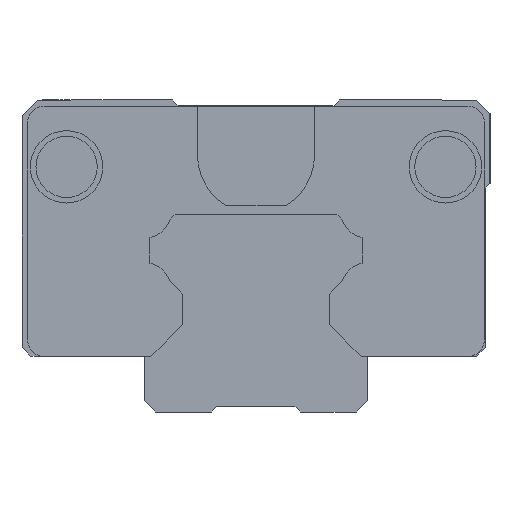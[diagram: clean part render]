
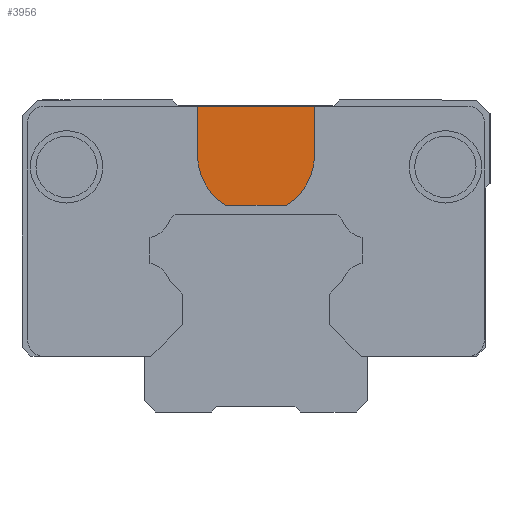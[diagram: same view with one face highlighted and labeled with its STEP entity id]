
A CAD part, left-side view. The second image highlights one B-rep face of the part: STEP entity #3956.
In plain terms, the highlighted planar face has unit normal (-1, 0, 0).
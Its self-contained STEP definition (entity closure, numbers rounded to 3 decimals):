
#3775=CARTESIAN_POINT('',(2.0,-5.25,23.05));
#3776=VERTEX_POINT('',#3775);
#3777=CARTESIAN_POINT('',(2.0,-5.25,27.45));
#3778=VERTEX_POINT('',#3777);
#3779=CARTESIAN_POINT('',(2.0,-5.25,23.05));
#3780=DIRECTION('',(0.0,0.0,1.0));
#3781=VECTOR('',#3780,4.4);
#3782=LINE('',#3779,#3781);
#3783=EDGE_CURVE('',#3776,#3778,#3782,.T.);
#3815=CARTESIAN_POINT('',(2.0,5.25,27.45));
#3816=VERTEX_POINT('',#3815);
#3817=CARTESIAN_POINT('',(2.0,5.25,23.05));
#3818=VERTEX_POINT('',#3817);
#3819=CARTESIAN_POINT('',(2.0,5.25,27.45));
#3820=DIRECTION('',(0.0,0.0,-1.0));
#3821=VECTOR('',#3820,4.4);
#3822=LINE('',#3819,#3821);
#3823=EDGE_CURVE('',#3816,#3818,#3822,.T.);
#3855=CARTESIAN_POINT('',(2.0,2.704,18.55));
#3856=VERTEX_POINT('',#3855);
#3857=CARTESIAN_POINT('',(2.0,0.,23.05));
#3858=DIRECTION('',(-1.,0.0,0.0));
#3859=DIRECTION('',(0.0,0.515,-0.857));
#3860=AXIS2_PLACEMENT_3D('',#3857,#3858,#3859);
#3861=CIRCLE('',#3860,5.25);
#3862=EDGE_CURVE('',#3818,#3856,#3861,.T.);
#3888=CARTESIAN_POINT('',(2.0,-2.704,18.55));
#3889=VERTEX_POINT('',#3888);
#3890=CARTESIAN_POINT('',(2.0,2.704,18.55));
#3891=DIRECTION('',(0.0,-1.0,0.0));
#3892=VECTOR('',#3891,5.408);
#3893=LINE('',#3890,#3892);
#3894=EDGE_CURVE('',#3856,#3889,#3893,.T.);
#3919=CARTESIAN_POINT('',(2.0,0.,23.05));
#3920=DIRECTION('',(-1.0,0.0,0.0));
#3921=DIRECTION('',(0.0,-1.0,0.0));
#3922=AXIS2_PLACEMENT_3D('',#3919,#3920,#3921);
#3923=CIRCLE('',#3922,5.25);
#3924=EDGE_CURVE('',#3889,#3776,#3923,.T.);
#3938=CARTESIAN_POINT('',(2.0,0.,23.465));
#3939=DIRECTION('',(1.0,0.0,0.0));
#3940=DIRECTION('',(0.0,0.0,-1.0));
#3941=AXIS2_PLACEMENT_3D('',#3938,#3939,#3940);
#3942=PLANE('',#3941);
#3943=ORIENTED_EDGE('',*,*,#3783,.T.);
#3944=CARTESIAN_POINT('',(2.0,5.25,27.45));
#3945=DIRECTION('',(0.0,-1.0,0.0));
#3946=VECTOR('',#3945,10.5);
#3947=LINE('',#3944,#3946);
#3948=EDGE_CURVE('',#3816,#3778,#3947,.T.);
#3949=ORIENTED_EDGE('',*,*,#3948,.F.);
#3950=ORIENTED_EDGE('',*,*,#3823,.T.);
#3951=ORIENTED_EDGE('',*,*,#3862,.T.);
#3952=ORIENTED_EDGE('',*,*,#3894,.T.);
#3953=ORIENTED_EDGE('',*,*,#3924,.T.);
#3954=EDGE_LOOP('',(#3943,#3949,#3950,#3951,#3952,#3953));
#3955=FACE_OUTER_BOUND('',#3954,.T.);
#3956=ADVANCED_FACE('',(#3955),#3942,.F.);
